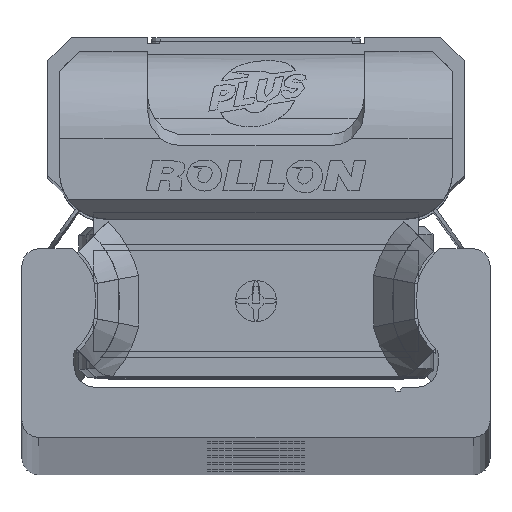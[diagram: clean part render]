
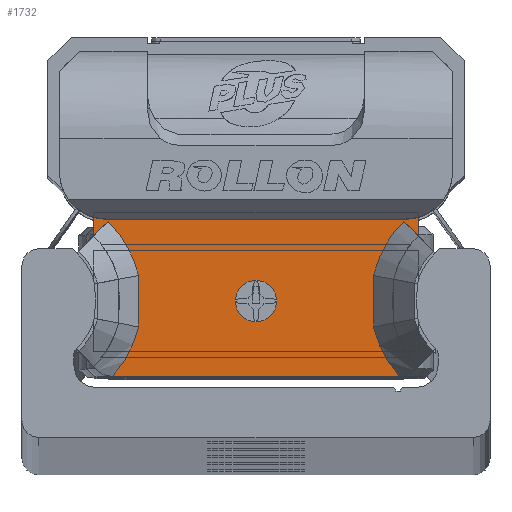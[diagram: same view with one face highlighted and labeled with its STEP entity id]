
A CAD part, top view. The second image highlights one B-rep face of the part: STEP entity #1732.
In plain terms, the highlighted planar face has unit normal (0, 0, 1) as drawn and (0, 0, -1) by its records, which use the part's own axes.
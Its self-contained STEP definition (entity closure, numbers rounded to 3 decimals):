
#1732 = ADVANCED_FACE( '', ( #3741, #3742 ), #3743, .F. );
#3741 = FACE_BOUND( '', #6047, .T. );
#3742 = FACE_OUTER_BOUND( '', #6048, .T. );
#3743 = PLANE( '', #6049 );
#6047 = EDGE_LOOP( '', ( #10805 ) );
#6048 = EDGE_LOOP( '', ( #10806, #10807, #10808, #10809, #10810, #10811, #10812, #10813, #10814, #10815, #10816, #10817, #10818, #10819 ) );
#6049 = AXIS2_PLACEMENT_3D( '', #10820, #10821, #10822 );
#10805 = ORIENTED_EDGE( '', *, *, #13792, .T. );
#10806 = ORIENTED_EDGE( '', *, *, #14311, .F. );
#10807 = ORIENTED_EDGE( '', *, *, #12937, .T. );
#10808 = ORIENTED_EDGE( '', *, *, #13883, .T. );
#10809 = ORIENTED_EDGE( '', *, *, #13299, .T. );
#10810 = ORIENTED_EDGE( '', *, *, #13319, .T. );
#10811 = ORIENTED_EDGE( '', *, *, #14057, .T. );
#10812 = ORIENTED_EDGE( '', *, *, #13310, .T. );
#10813 = ORIENTED_EDGE( '', *, *, #13800, .T. );
#10814 = ORIENTED_EDGE( '', *, *, #14312, .T. );
#10815 = ORIENTED_EDGE( '', *, *, #14183, .T. );
#10816 = ORIENTED_EDGE( '', *, *, #12951, .T. );
#10817 = ORIENTED_EDGE( '', *, *, #13260, .T. );
#10818 = ORIENTED_EDGE( '', *, *, #12643, .T. );
#10819 = ORIENTED_EDGE( '', *, *, #14313, .T. );
#10820 = CARTESIAN_POINT( '', ( 9.7, 4.89, -10.6 ) );
#10821 = DIRECTION( '', ( 0., 0., 1. ) );
#10822 = DIRECTION( '', ( 1., 0., 0. ) );
#12643 = EDGE_CURVE( '', #15041, #15042, #15043, .T. );
#12937 = EDGE_CURVE( '', #15545, #15543, #15546, .T. );
#12951 = EDGE_CURVE( '', #15560, #15568, #15570, .T. );
#13260 = EDGE_CURVE( '', #15568, #15041, #16071, .T. );
#13299 = EDGE_CURVE( '', #16122, #16132, #16134, .T. );
#13310 = EDGE_CURVE( '', #16151, #16152, #16153, .T. );
#13319 = EDGE_CURVE( '', #16132, #16166, #16167, .T. );
#13792 = EDGE_CURVE( '', #16892, #16892, #16893, .T. );
#13800 = EDGE_CURVE( '', #16152, #16904, #16906, .T. );
#13883 = EDGE_CURVE( '', #15543, #16122, #17018, .T. );
#14057 = EDGE_CURVE( '', #16166, #16151, #17251, .T. );
#14183 = EDGE_CURVE( '', #15534, #15560, #17409, .T. );
#14311 = EDGE_CURVE( '', #15545, #14849, #17569, .T. );
#14312 = EDGE_CURVE( '', #16904, #15534, #17570, .T. );
#14313 = EDGE_CURVE( '', #15042, #14849, #17571, .T. );
#14849 = VERTEX_POINT( '', #18208 );
#15041 = VERTEX_POINT( '', #18472 );
#15042 = VERTEX_POINT( '', #18473 );
#15043 = B_SPLINE_CURVE_WITH_KNOTS( '', 2, ( #18474, #18475, #18476 ), .UNSPECIFIED., .F., .F., ( 3, 3 ), ( 0., 1. ), .UNSPECIFIED. );
#15534 = VERTEX_POINT( '', #19136 );
#15543 = VERTEX_POINT( '', #19146 );
#15545 = VERTEX_POINT( '', #19149 );
#15546 = CIRCLE( '', #19150, 2.8 );
#15560 = VERTEX_POINT( '', #19167 );
#15568 = VERTEX_POINT( '', #19187 );
#15570 = B_SPLINE_CURVE_WITH_KNOTS( '', 2, ( #19190, #19191, #19192 ), .UNSPECIFIED., .F., .F., ( 3, 3 ), ( 0.1, 1. ), .UNSPECIFIED. );
#16071 = B_SPLINE_CURVE_WITH_KNOTS( '', 2, ( #19871, #19872, #19873 ), .UNSPECIFIED., .F., .F., ( 3, 3 ), ( 0., 1. ), .UNSPECIFIED. );
#16122 = VERTEX_POINT( '', #19943 );
#16132 = VERTEX_POINT( '', #19955 );
#16134 = CIRCLE( '', #19958, 2.8 );
#16151 = VERTEX_POINT( '', #19982 );
#16152 = VERTEX_POINT( '', #19983 );
#16153 = B_SPLINE_CURVE_WITH_KNOTS( '', 2, ( #19984, #19985, #19986, #19987, #19988 ), .UNSPECIFIED., .F., .F., ( 3, 2, 3 ), ( 0., 0.5, 1. ), .UNSPECIFIED. );
#16166 = VERTEX_POINT( '', #20008 );
#16167 = LINE( '', #20009, #20010 );
#16892 = VERTEX_POINT( '', #21165 );
#16893 = CIRCLE( '', #21166, 1.25 );
#16904 = VERTEX_POINT( '', #21179 );
#16906 = B_SPLINE_CURVE_WITH_KNOTS( '', 2, ( #21182, #21183, #21184 ), .UNSPECIFIED., .F., .F., ( 3, 3 ), ( 0., 1. ), .UNSPECIFIED. );
#17018 = LINE( '', #21340, #21341 );
#17251 = LINE( '', #21664, #21665 );
#17409 = LINE( '', #21907, #21908 );
#17569 = LINE( '', #22141, #22142 );
#17570 = B_SPLINE_CURVE_WITH_KNOTS( '', 2, ( #22143, #22144, #22145 ), .UNSPECIFIED., .F., .F., ( 3, 3 ), ( 0., 1. ), .UNSPECIFIED. );
#17571 = LINE( '', #22146, #22147 );
#18208 = CARTESIAN_POINT( '', ( -9.7, 3.494, -10.6 ) );
#18472 = CARTESIAN_POINT( '', ( -7.031, 1.144, -10.6 ) );
#18473 = CARTESIAN_POINT( '', ( -8.853, 4.366, -10.6 ) );
#18474 = CARTESIAN_POINT( '', ( -7.031, 1.144, -10.6 ) );
#18475 = CARTESIAN_POINT( '', ( -7.477, 3.018, -10.6 ) );
#18476 = CARTESIAN_POINT( '', ( -8.853, 4.366, -10.6 ) );
#19136 = CARTESIAN_POINT( '', ( 8.59, -4.893, -10.6 ) );
#19146 = CARTESIAN_POINT( '', ( -8.95, 4.51, -10.6 ) );
#19149 = CARTESIAN_POINT( '', ( -9.7, 4.612, -10.6 ) );
#19150 = AXIS2_PLACEMENT_3D( '', #23296, #23297, #23298 );
#19167 = CARTESIAN_POINT( '', ( -8.59, -4.893, -10.6 ) );
#19187 = CARTESIAN_POINT( '', ( -7.031, -1.944, -10.6 ) );
#19190 = CARTESIAN_POINT( '', ( -8.587, -4.89, -10.6 ) );
#19191 = CARTESIAN_POINT( '', ( -7.432, -3.63, -10.6 ) );
#19192 = CARTESIAN_POINT( '', ( -7.031, -1.944, -10.6 ) );
#19871 = CARTESIAN_POINT( '', ( -7.031, -1.944, -10.6 ) );
#19872 = CARTESIAN_POINT( '', ( -6.929, -0.4, -10.6 ) );
#19873 = CARTESIAN_POINT( '', ( -7.031, 1.144, -10.6 ) );
#19943 = CARTESIAN_POINT( '', ( 8.95, 4.51, -10.6 ) );
#19955 = CARTESIAN_POINT( '', ( 9.7, 4.612, -10.6 ) );
#19958 = AXIS2_PLACEMENT_3D( '', #23819, #23820, #23821 );
#19982 = CARTESIAN_POINT( '', ( 8.853, 4.366, -10.6 ) );
#19983 = CARTESIAN_POINT( '', ( 7.031, 1.144, -10.6 ) );
#19984 = CARTESIAN_POINT( '', ( 8.853, 4.366, -10.6 ) );
#19985 = CARTESIAN_POINT( '', ( 8.182, 3.708, -10.6 ) );
#19986 = CARTESIAN_POINT( '', ( 7.715, 2.883, -10.6 ) );
#19987 = CARTESIAN_POINT( '', ( 7.249, 2.058, -10.6 ) );
#19988 = CARTESIAN_POINT( '', ( 7.031, 1.144, -10.6 ) );
#20008 = CARTESIAN_POINT( '', ( 9.7, 3.497, -10.6 ) );
#20009 = CARTESIAN_POINT( '', ( 9.7, 4.89, -10.6 ) );
#20010 = VECTOR( '', #23834, 1000. );
#21165 = CARTESIAN_POINT( '', ( 1.25, -0.39, -10.6 ) );
#21166 = AXIS2_PLACEMENT_3D( '', #24556, #24557, #24558 );
#21179 = CARTESIAN_POINT( '', ( 7.031, -1.944, -10.6 ) );
#21182 = CARTESIAN_POINT( '', ( 7.031, 1.144, -10.6 ) );
#21183 = CARTESIAN_POINT( '', ( 6.929, -0.4, -10.6 ) );
#21184 = CARTESIAN_POINT( '', ( 7.031, -1.944, -10.6 ) );
#21340 = CARTESIAN_POINT( '', ( 9.7, 4.51, -10.6 ) );
#21341 = VECTOR( '', #24653, 1000. );
#21664 = CARTESIAN_POINT( '', ( 9.7, 3.501, -10.6 ) );
#21665 = VECTOR( '', #24834, 1000. );
#21907 = CARTESIAN_POINT( '', ( 9.7, -4.89, -10.6 ) );
#21908 = VECTOR( '', #24965, 1000. );
#22141 = CARTESIAN_POINT( '', ( -9.7, 4.89, -10.6 ) );
#22142 = VECTOR( '', #25088, 1000. );
#22143 = CARTESIAN_POINT( '', ( 7.031, -1.944, -10.6 ) );
#22144 = CARTESIAN_POINT( '', ( 7.429, -3.615, -10.6 ) );
#22145 = CARTESIAN_POINT( '', ( 8.588, -4.89, -10.6 ) );
#22146 = CARTESIAN_POINT( '', ( -8.853, 4.366, -10.6 ) );
#22147 = VECTOR( '', #25089, 1000. );
#23296 = CARTESIAN_POINT( '', ( -8.95, 7.31, -10.6 ) );
#23297 = DIRECTION( '', ( 0., 0., 1. ) );
#23298 = DIRECTION( '', ( 1., 0., 0. ) );
#23819 = CARTESIAN_POINT( '', ( 8.95, 7.31, -10.6 ) );
#23820 = DIRECTION( '', ( 0., 0., 1. ) );
#23821 = DIRECTION( '', ( 1., 0., 0. ) );
#23834 = DIRECTION( '', ( 0., -1., 0. ) );
#24556 = CARTESIAN_POINT( '', ( 0., -0.39, -10.6 ) );
#24557 = DIRECTION( '', ( 0., 0., 1. ) );
#24558 = DIRECTION( '', ( 1., 0., 0. ) );
#24653 = DIRECTION( '', ( 1., 0., 0. ) );
#24834 = DIRECTION( '', ( -0.7, 0.714, 0. ) );
#24965 = DIRECTION( '', ( -1., 0., 0. ) );
#25088 = DIRECTION( '', ( 0., -1., 0. ) );
#25089 = DIRECTION( '', ( -0.7, -0.714, 0. ) );
